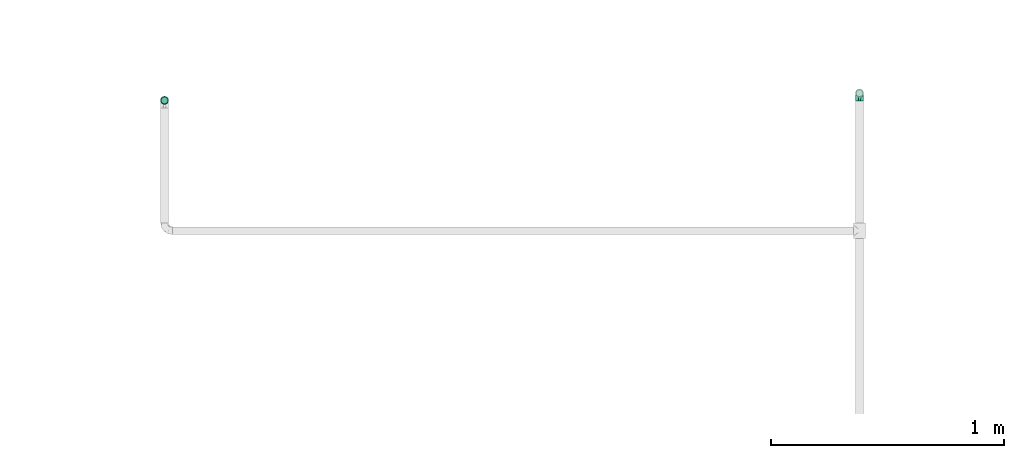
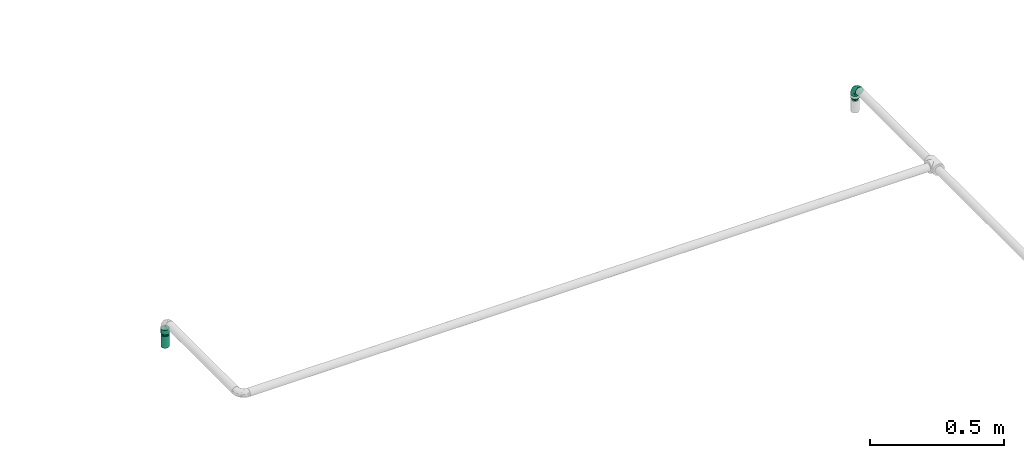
# One storey, part 7 of 17: 3 flow fittings, 1 flow segment, 1 flow terminal.
"""IFC2X3 building model written with IfcOpenShell, lengths in millimetres."""

from ifc_helpers import new_model, entity, si_unit, converted_unit, derived_unit, direction, frame, origin_with_axes, origin_2d_with_axis, place, context, subcontext, project, spatial, hollow_circle, extrude, open_shell, surface_model, source, transform, mapped, type_object, element, save


model = new_model("IFC2X3")

# Units and contexts
model_context = context("Model", 3, precision=0.01, world=frame((0.0, 4.29681676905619e-09, 0.0)), true_north=direction((4.01073788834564e-13, 1.0)))
plan_context = context("Plan", 3, precision=0.01, world=frame((0.0, 4.29681676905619e-09, 0.0)), true_north=direction((4.01073788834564e-13, 1.0)))
body_context = subcontext(model_context, "Body", "Model", "MODEL_VIEW")
ifc_project = project(units=[converted_unit("PLANEANGLEUNIT", "DEGREE", entity("IfcPositiveLengthMeasure", 0.0174532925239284), si_unit("PLANEANGLEUNIT", "RADIAN"), dimensions=[0, 0, 0, 0, 0, 0, 0]), si_unit("AREAUNIT", "SQUARE_METRE"), si_unit("LENGTHUNIT", "METRE", prefix="MILLI"), si_unit("MASSUNIT", "GRAM", prefix="KILO"), si_unit("POWERUNIT", "WATT"), si_unit("PRESSUREUNIT", "PASCAL"), si_unit("FORCEUNIT", "NEWTON", prefix="KILO"), si_unit("ELECTRICVOLTAGEUNIT", "VOLT"), si_unit("ELECTRICCURRENTUNIT", "AMPERE"), si_unit("THERMODYNAMICTEMPERATUREUNIT", "DEGREE_CELSIUS"), si_unit("TIMEUNIT", "SECOND"), si_unit("VOLUMEUNIT", "CUBIC_METRE"), derived_unit("LINEARVELOCITYUNIT", [(si_unit("LENGTHUNIT", "METRE"), 1), (si_unit("TIMEUNIT", "SECOND"), -1)]), derived_unit("VOLUMETRICFLOWRATEUNIT", [(si_unit("VOLUMEUNIT", "CUBIC_METRE"), 1), (si_unit("TIMEUNIT", "SECOND"), -1)]), derived_unit("THERMALTRANSMITTANCEUNIT", [(si_unit("POWERUNIT", "WATT"), 1), (si_unit("THERMODYNAMICTEMPERATUREUNIT", "KELVIN"), -1), (si_unit("AREAUNIT", "SQUARE_METRE"), -1)]), derived_unit("SOUNDPRESSUREUNIT", [(si_unit("PRESSUREUNIT", "PASCAL"), 1)])], contexts=[model_context, plan_context])

# Site, building, storey
site_placement = place(None, frame((0.0, -4.29681676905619e-09, 0.0), z_axis=(0.0, 0.0, 1.0), x_axis=(1.0, 0.0, 0.0)))
site = spatial("IfcSite", under=ifc_project, at=site_placement, Name="ENGM", CompositionType="ELEMENT")
building_placement = place(site_placement, frame((0.0, 4.29681676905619e-09, 0.0), z_axis=(0.0, 0.0, 1.0), x_axis=(1.0, 0.0, 0.0)))
building = spatial("IfcBuilding", under=site, at=building_placement, Name="TH", CompositionType="ELEMENT")
storey_placement = place(building_placement, frame((0.0, 0.0, 205200.0), z_axis=(0.0, 0.0, 1.0), x_axis=(1.0, 0.0, 0.0)))
storey = spatial("IfcBuildingStorey", under=building, at=storey_placement, Name="Nivå D + 1,2 m", CompositionType="ELEMENT", Elevation=205200.0)

# Flow fittings
pipe_fitting_type_1 = type_object("IfcPipeFittingType", Name="magi_pipe_fe_elbow_short_001", PredefinedType="BEND")
shared_shape_1 = source(origin_with_axes(), body_context, "Body", "SurfaceModel", [
    surface_model("IfcShellBasedSurfaceModel", [(-33.8, 8.45, -14.63583), (-33.8, 4.37404, -16.32415), (-33.8, 11.9501, -11.9501), (-33.8, -11.9501, -11.9501), (-33.8, -14.63583, -8.45), (-33.8, -8.45, -14.63583), (-33.8, 0.0, -16.9), (-33.8, -4.37404, -16.32415), (-33.8, -4.37404, 16.32415), (-33.8, 0.0, 16.9), (-33.8, -8.45, 14.63583), (-33.8, 16.32415, -4.37404), (-33.8, 14.63583, -8.45), (-33.8, -16.32415, -4.37404), (-33.8, -16.9, 0.0), (-33.8, -16.32415, 4.37404), (-33.8, 11.9501, 11.9501), (-33.8, 14.63583, 8.45), (-33.8, 16.32415, 4.37404), (-33.8, 4.37404, 16.32415), (-33.8, 8.45, 14.63583), (-33.8, -14.63583, 8.45), (-33.8, -11.9501, 11.9501), (-33.8, 16.9, 0.0), (-11.9501, 33.8, -11.9501), (0.0, 33.8, -16.9), (-4.37404, 33.8, -16.32415), (-8.45, 33.8, -14.63583), (-14.63583, 33.8, -8.45), (-16.32415, 33.8, -4.37404), (14.63583, 33.8, -8.45), (8.45, 33.8, 14.63583), (16.32415, 33.8, -4.37404), (8.45, 33.8, -14.63583), (11.9501, 33.8, -11.9501), (4.37404, 33.8, -16.32415), (16.32415, 33.8, 4.37404), (16.9, 33.8, 0.0), (-11.9501, 33.8, 11.9501), (-16.32415, 33.8, 4.37404), (-14.63583, 33.8, 8.45), (-8.45, 33.8, 14.63583), (-4.37404, 33.8, 16.32415), (11.9501, 33.8, 11.9501), (14.63583, 33.8, 8.45), (0.0, 33.8, 16.9), (4.37404, 33.8, 16.32415), (-16.9, 33.8, 0.0), (-24.79389, -13.12945, 9.48721), (-22.19287, -9.75018, 12.59315), (-24.09897, -14.97035, 0.0), (-14.93934, -10.76256, 8.5297), (-22.46095, -14.75051, 5.27077), (14.75051, 22.46094, 5.27077), (11.9251, 13.23888, 4.33236), (13.04069, 14.39795, 0.0), (7.71387, 13.68847, 11.55891), (9.75018, 22.19287, 12.59315), (4.10169, 13.0571, 14.04018), (-24.84007, -6.39063, 15.2048), (-25.81779, -2.23879, 16.61097), (-23.66549, 2.59054, 16.87119), (-26.50418, 14.06512, 11.08152), (-24.21253, 17.66365, 7.72657), (-29.58514, 15.86957, 7.00283), (-6.17382, -7.5455, 0.0), (-13.23888, -11.9251, 4.33236), (-14.39795, -13.04069, 0.0), (-17.81434, 18.87373, 11.97104), (-6.30846, 29.15138, 15.82987), (-2.31622, 25.28002, 16.85849), (-29.23923, 10.23435, 13.77053), (-1.45439, -2.85688, 7.61475), (-0.28326, 0.34872, 10.09509), (-5.74484, -4.04709, 10.4122), (-4.41137, 11.31918, 16.59407), (-8.39727, 3.10034, 15.7812), (-1.72649, 9.1306, 15.53089), (-17.39909, 24.75344, 7.64977), (-26.19233, 20.0512, 0.0), (-28.14518, 17.29657, 4.25857), (-26.05147, 6.6281, 15.96447), (-5.87354, 16.61944, 16.86968), (-12.51807, 12.51807, 16.48937), (-10.06312, 7.38516, 16.81295), (-3.01882, 3.01882, 13.81718), (-13.0571, -4.10169, 14.04018), (-16.82553, -0.15166, 16.38038), (10.76256, 14.93934, 8.5297), (13.12945, 24.79389, 9.48721), (6.39063, 24.84007, 15.2048), (2.23879, 25.81779, 16.61097), (-13.68847, -7.71387, 11.55891), (14.97035, 24.09897, 0.0), (-7.30894, 22.89991, 16.09489), (-10.67958, 26.17414, 14.008), (-12.78295, 18.26924, 15.06066), (-13.88562, 22.45231, 12.93244), (-18.04944, 15.16501, 14.04434), (-23.11658, 20.08178, 4.02986), (-21.84989, 21.84989, 0.0), (-18.55817, 25.48277, 3.93065), (-13.95142, 26.94732, 11.03289), (-18.57098, 7.23906, 16.59756), (-16.58335, 4.14122, 16.89279), (-17.96666, 11.46709, 15.63151), (-9.84453, 17.54304, 16.18938), (0.15166, 16.82553, 16.38038), (-23.27207, 11.47201, 14.23154), (3.84842, 5.86994, 10.70473), (-8.0212, -7.54413, 7.93275), (1.00345, -2.19508, 4.57414), (5.13203, 3.01004, 5.90201), (5.24161, 1.7543, 2.53265), (8.70457, 7.04947, 3.99182), (-20.0512, 26.19233, 0.0), (8.4852, 8.76699, 7.09296), (-4.55488, -6.72064, 4.90681), (2.05031, -2.05031, 0.0), (7.5455, 6.17382, 0.0), (-26.75399, 2.1369, -16.845), (-14.61995, 24.73803, -11.27736), (-28.45274, -13.45335, -9.81895), (-26.00469, 6.63555, -15.96645), (-23.06726, 20.04573, -4.26202), (-13.80647, -4.26506, -14.17873), (-14.67501, -0.21081, -16.07388), (-6.7902, -0.2828, -13.8478), (-24.53586, 11.08096, -14.13417), (-26.72048, 14.00837, -11.05776), (10.0967, 24.44989, -12.75976), (5.83237, 21.40218, -15.03047), (6.66249, 28.54238, -15.38093), (-20.38182, 15.48705, -12.74596), (12.53268, 21.23441, -9.15363), (12.54494, 15.67504, -5.54878), (9.7522, 12.89279, -8.66343), (-15.65186, 19.64213, -13.01327), (-12.03528, 20.66498, -14.67665), (-15.61907, 15.61906, -14.83879), (-25.56551, -15.26206, 0.0), (-24.65452, -15.12934, -5.50955), (13.45335, 28.45274, -9.81895), (15.12934, 24.65452, -5.50955), (-7.35442, -8.31014, -5.65563), (-15.67504, -12.54494, -5.54878), (-24.44989, -10.0967, -12.75976), (0.16522, 0.41303, -9.71728), (-5.70658, -5.33066, -8.89288), (-5.13869, -2.37198, -11.53565), (-21.23441, -12.53268, -9.15363), (0.71146, 7.93863, -14.09382), (0.21081, 14.67501, -16.07388), (3.49291, 14.42772, -14.76381), (-24.89911, -2.13088, -16.591), (-28.54238, -6.66249, -15.38093), (-18.44386, -7.71663, -13.26957), (2.13088, 24.89911, -16.591), (-28.64342, 17.44413, -2.89318), (1.70017, -1.28722, -5.09504), (-16.57067, 26.81947, -7.36596), (-17.69055, 27.4263, -3.76405), (-12.89279, -9.7522, -8.66343), (-5.96611, 5.96611, -15.95814), (-20.53709, 20.09345, -8.28985), (-2.1369, 26.75399, -16.845), (-6.89872, 24.58781, -16.02578), (-10.60739, 26.53157, -13.98044), (-21.40218, -5.83237, -15.03047), (2.93192, 5.89627, -11.55917), (6.89393, 12.61842, -11.82233), (5.58056, 5.95325, -8.79455), (-3.99512, 18.61798, -16.89635), (8.31014, 7.35442, -5.65563), (-9.1383, 9.86148, -16.89041), (-9.99983, 16.02119, -16.39699), (-16.68576, 9.78031, -16.34199), (-27.01915, 16.61158, -7.12979), (15.26206, 25.56551, 0.0), (-18.61798, 3.99512, -16.89635), (-19.37495, 27.82495, 0.0), (-12.61842, -6.89393, -11.82233), (-18.84705, 19.14018, -10.96545)], [open_shell([[[0, 1, 2]], [[3, 4, 5]], [[6, 7, 5]], [[8, 9, 10]], [[1, 6, 2]], [[11, 12, 2]], [[4, 2, 6]], [[2, 13, 10]], [[5, 4, 6]], [[2, 4, 13]], [[14, 15, 13]], [[11, 2, 16]], [[11, 17, 18]], [[11, 16, 17]], [[19, 20, 16]], [[16, 2, 10]], [[19, 16, 10]], [[21, 22, 15]], [[22, 13, 15]], [[22, 10, 13]], [[10, 9, 19]], [[11, 18, 23]], [[24, 25, 26]], [[24, 26, 27]], [[24, 28, 29]], [[25, 24, 30]], [[31, 32, 24]], [[33, 30, 34]], [[33, 35, 25]], [[25, 30, 33]], [[32, 30, 24]], [[32, 36, 37]], [[38, 24, 29]], [[39, 40, 29]], [[40, 38, 29]], [[38, 41, 42]], [[38, 31, 24]], [[31, 38, 42]], [[36, 43, 44]], [[36, 32, 43]], [[31, 45, 46]], [[32, 31, 43]], [[42, 45, 31]], [[39, 29, 47]], [[22, 48, 49]], [[15, 14, 50]], [[51, 48, 52]], [[53, 54, 55]], [[48, 22, 21]], [[15, 52, 21]], [[56, 57, 58]], [[49, 10, 22]], [[49, 59, 10]], [[9, 60, 61]], [[62, 63, 64]], [[65, 66, 67]], [[57, 43, 31]], [[62, 68, 63]], [[42, 69, 70]], [[20, 71, 16]], [[8, 60, 9]], [[72, 73, 74]], [[75, 76, 77]], [[16, 62, 17]], [[40, 39, 78]], [[79, 23, 80]], [[64, 18, 17]], [[9, 61, 19]], [[19, 81, 20]], [[82, 83, 84]], [[74, 85, 86]], [[59, 86, 87]], [[88, 89, 57]], [[90, 31, 46]], [[44, 53, 36]], [[46, 45, 91]], [[54, 53, 88]], [[44, 89, 53]], [[92, 86, 49]], [[89, 44, 43]], [[10, 59, 8]], [[53, 55, 93]], [[93, 36, 53]], [[66, 52, 67]], [[94, 82, 70]], [[95, 96, 94]], [[97, 98, 96]], [[79, 99, 100]], [[41, 38, 95]], [[101, 100, 99]], [[68, 78, 63]], [[42, 41, 69]], [[23, 18, 80]], [[95, 94, 69]], [[78, 101, 99]], [[38, 102, 95]], [[70, 45, 42]], [[97, 95, 102]], [[15, 50, 52]], [[90, 57, 31]], [[57, 90, 58]], [[81, 19, 61]], [[103, 104, 84]], [[105, 81, 103]], [[38, 40, 102]], [[106, 96, 83]], [[94, 106, 82]], [[91, 70, 107]], [[71, 62, 16]], [[62, 108, 98]], [[86, 59, 49]], [[67, 52, 50]], [[60, 59, 87]], [[92, 49, 51]], [[86, 85, 76]], [[91, 90, 46]], [[37, 36, 93]], [[107, 77, 58]], [[107, 58, 90]], [[58, 85, 109]], [[110, 74, 92]], [[72, 74, 110]], [[66, 51, 52]], [[72, 111, 112]], [[113, 114, 112]], [[56, 88, 57]], [[52, 48, 21]], [[49, 48, 51]], [[57, 89, 43]], [[53, 89, 88]], [[103, 81, 61]], [[71, 81, 108]], [[18, 64, 80]], [[63, 78, 99]], [[47, 115, 101]], [[101, 115, 100]], [[40, 78, 102]], [[68, 102, 78]], [[97, 96, 95]], [[105, 98, 108]], [[103, 84, 83]], [[107, 70, 82]], [[76, 84, 87]], [[82, 84, 75]], [[70, 91, 45]], [[90, 91, 107]], [[59, 60, 8]], [[61, 60, 87]], [[73, 85, 74]], [[109, 112, 116]], [[103, 61, 104]], [[105, 103, 83]], [[96, 105, 83]], [[81, 105, 108]], [[96, 98, 105]], [[62, 98, 68]], [[61, 87, 104]], [[87, 84, 104]], [[86, 76, 87]], [[77, 76, 85]], [[58, 77, 85]], [[75, 77, 107]], [[82, 75, 107]], [[76, 75, 84]], [[81, 71, 20]], [[62, 71, 108]], [[95, 69, 41]], [[70, 69, 94]], [[62, 64, 17]], [[80, 63, 99]], [[63, 80, 64]], [[80, 99, 79]], [[66, 65, 117]], [[110, 66, 117]], [[112, 114, 116]], [[118, 117, 65]], [[110, 92, 51]], [[112, 111, 113]], [[119, 55, 54]], [[74, 86, 92]], [[58, 109, 56]], [[116, 56, 109]], [[66, 110, 51]], [[72, 110, 117]], [[111, 72, 117]], [[73, 112, 109]], [[117, 118, 111]], [[113, 111, 118]], [[118, 119, 113]], [[114, 119, 54]], [[119, 114, 113]], [[116, 54, 88]], [[54, 116, 114]], [[116, 88, 56]], [[112, 73, 72]], [[85, 73, 109]], [[78, 39, 101]], [[47, 101, 39]], [[102, 68, 97]], [[97, 68, 98]], [[82, 106, 83]], [[94, 96, 106]], [[1, 120, 6]], [[28, 24, 121]], [[3, 122, 4]], [[0, 123, 1]], [[100, 124, 79]], [[125, 126, 127]], [[128, 2, 129]], [[130, 131, 132]], [[128, 129, 133]], [[134, 135, 136]], [[137, 138, 139]], [[128, 0, 2]], [[67, 140, 141]], [[134, 142, 143]], [[141, 13, 4]], [[144, 65, 145]], [[146, 3, 5]], [[147, 148, 149]], [[145, 141, 150]], [[151, 152, 153]], [[154, 7, 6]], [[5, 155, 146]], [[150, 146, 156]], [[155, 5, 7]], [[143, 135, 134]], [[35, 157, 25]], [[23, 79, 158]], [[148, 159, 144]], [[160, 161, 29]], [[145, 162, 144]], [[163, 152, 151]], [[29, 28, 160]], [[121, 164, 160]], [[33, 34, 130]], [[25, 165, 26]], [[26, 165, 166]], [[142, 34, 30]], [[24, 27, 167]], [[124, 161, 164]], [[157, 35, 132]], [[155, 154, 168]], [[123, 0, 128]], [[169, 170, 171]], [[172, 157, 152]], [[26, 166, 27]], [[132, 35, 33]], [[142, 130, 34]], [[168, 154, 126]], [[136, 135, 173]], [[133, 137, 139]], [[2, 12, 129]], [[170, 131, 130]], [[30, 32, 143]], [[172, 174, 175]], [[176, 123, 128]], [[158, 177, 11]], [[135, 55, 119]], [[167, 27, 166]], [[175, 166, 172]], [[137, 167, 138]], [[122, 141, 4]], [[140, 14, 13]], [[32, 37, 178]], [[170, 130, 134]], [[152, 157, 131]], [[165, 157, 172]], [[153, 170, 151]], [[152, 163, 174]], [[168, 125, 156]], [[122, 146, 150]], [[120, 154, 6]], [[179, 174, 126]], [[179, 126, 154]], [[126, 163, 127]], [[162, 145, 150]], [[140, 13, 141]], [[32, 178, 143]], [[55, 143, 178]], [[177, 129, 12]], [[128, 133, 139]], [[176, 128, 139]], [[120, 123, 179]], [[121, 160, 28]], [[161, 100, 180]], [[166, 175, 138]], [[121, 24, 167]], [[161, 47, 29]], [[79, 124, 158]], [[124, 164, 177]], [[161, 124, 100]], [[136, 171, 170]], [[127, 163, 151]], [[147, 171, 159]], [[148, 144, 162]], [[127, 151, 169]], [[127, 181, 125]], [[129, 177, 164]], [[12, 11, 177]], [[159, 65, 144]], [[67, 141, 145]], [[143, 55, 135]], [[135, 119, 173]], [[123, 120, 1]], [[154, 120, 179]], [[157, 165, 25]], [[166, 165, 172]], [[172, 152, 174]], [[176, 139, 175]], [[126, 174, 163]], [[176, 174, 179]], [[174, 176, 175]], [[123, 176, 179]], [[150, 181, 162]], [[127, 149, 181]], [[181, 148, 162]], [[159, 148, 147]], [[171, 136, 173]], [[170, 134, 136]], [[159, 171, 173]], [[171, 147, 169]], [[169, 147, 149]], [[151, 170, 169]], [[164, 182, 129]], [[182, 121, 137]], [[181, 149, 148]], [[169, 149, 127]], [[182, 137, 133]], [[167, 137, 121]], [[166, 138, 167]], [[175, 139, 138]], [[129, 182, 133]], [[121, 182, 164]], [[161, 160, 164]], [[47, 161, 180]], [[177, 158, 124]], [[23, 158, 11]], [[130, 132, 33]], [[157, 132, 131]], [[143, 142, 30]], [[130, 142, 134]], [[154, 155, 7]], [[146, 155, 168]], [[146, 122, 3]], [[141, 122, 150]], [[152, 131, 153]], [[159, 119, 118]], [[67, 145, 65]], [[170, 153, 131]], [[119, 159, 173]], [[159, 118, 65]], [[156, 125, 181]], [[126, 125, 168]], [[150, 156, 181]], [[168, 156, 146]]])]),
])
flow_fitting_placement = place(storey_placement, frame((902429.75707, 482260.0386, 4450.0), z_axis=(-1.0, 0.0, 0.0), x_axis=(0.0, 1.0, 0.0)))
element("IfcFlowFitting", 1, at=flow_fitting_placement, inside=storey, type_object=pipe_fitting_type_1, Name="magi_pipe_fe_elbow_short_001", context=body_context, shape_type="MappedRepresentation", body=[
    mapped(shared_shape_1, transform((0.0, 0.0, 0.0), scale=1.0)),
])
pipe_fitting_type_2 = type_object("IfcPipeFittingType", Name="magi_pipe_fe_reducer_centric_short_NOR", PredefinedType="TRANSITION")
shared_shape_2 = source(origin_with_axes(), body_context, "Body", "SurfaceModel", [
    surface_model("IfcShellBasedSurfaceModel", [(14.4, 5.35, -9.26647), (14.4, 0.0, -10.7), (14.4, 2.76936, -10.33541), (14.4, 10.33541, -2.76936), (14.4, 7.56604, -7.56604), (14.4, 9.26647, -5.35), (14.4, -5.35, -9.26647), (14.4, -2.76936, -10.33541), (14.4, -7.56604, -7.56604), (14.4, -10.33541, -2.76936), (14.4, -9.26647, -5.35), (14.4, 10.33541, 2.76936), (14.4, 9.26647, 5.35), (14.4, 7.56604, 7.56604), (14.4, 2.76936, 10.33541), (14.4, 5.35, 9.26647), (14.4, -7.56604, 7.56604), (14.4, -2.76936, 10.33541), (14.4, -5.35, 9.26647), (12.4, 7.56604, 7.56604), (12.4, 9.26647, 5.35), (12.4, 10.33541, 2.76936), (12.4, -2.76936, 10.33541), (12.4, -7.56604, 7.56604), (12.4, -5.35, 9.26647), (12.4, -10.33541, 2.76936), (12.4, -9.26647, 5.35), (12.4, 0.0, 10.7), (12.4, -10.33541, -2.76936), (12.4, -10.7, 0.0), (12.4, -5.35, -9.26647), (12.4, 0.0, -10.7), (12.4, -2.76936, -10.33541), (12.4, 2.76936, -10.33541), (12.4, 10.33541, -2.76936), (12.4, 10.7, 0.0), (12.4, -9.26647, -5.35), (12.4, -7.56604, -7.56604), (14.4, -10.7, 0.0), (12.4, 5.35, -9.26647), (12.4, 7.56604, -7.56604), (12.4, 9.26647, -5.35), (14.4, 10.7, 0.0), (12.4, 5.35, 9.26647), (12.4, 2.76936, 10.33541), (14.4, 0.0, 10.7), (14.4, -9.26647, 5.35), (14.4, -10.33541, 2.76936), (-2.0, 11.9501, 11.9501), (-2.0, 0.0, 16.9), (-2.0, 4.37404, 16.32415), (-2.0, 8.45, 14.63583), (-2.0, 14.63583, 8.45), (-2.0, 16.32415, 4.37404), (-2.0, -16.32415, 4.37404), (-2.0, -8.45, 14.63583), (-2.0, -14.63583, 8.45), (-2.0, -11.9501, 11.9501), (-2.0, -4.37404, 16.32415), (-2.0, -16.32415, -4.37404), (-2.0, -16.9, 0.0), (-2.0, -8.45, -14.63583), (-2.0, 16.32415, -4.37404), (-2.0, 11.9501, -11.9501), (-2.0, 14.63583, -8.45), (-2.0, 8.45, -14.63583), (-2.0, 4.37404, -16.32415), (-2.0, 0.0, -16.9), (-2.0, -11.9501, -11.9501), (-2.0, -14.63583, -8.45), (-2.0, -4.37404, -16.32415), (-2.0, 16.9, 0.0), (0.0, 4.37404, -16.32415), (0.0, 8.45, -14.63583), (0.0, 11.9501, -11.9501), (0.0, 0.0, -16.9), (0.0, 16.32415, -4.37404), (0.0, 16.32415, 4.37404), (0.0, 14.63583, -8.45), (0.0, -8.45, -14.63583), (0.0, -4.37404, -16.32415), (0.0, -11.9501, -11.9501), (0.0, -16.32415, -4.37404), (0.0, -14.63583, -8.45), (0.0, -16.32415, 4.37404), (0.0, 16.9, 0.0), (0.0, 14.63583, 8.45), (0.0, 11.9501, 11.9501), (0.0, 4.37404, 16.32415), (0.0, 8.45, 14.63583), (0.0, 0.0, 16.9), (0.0, -14.63583, 8.45), (0.0, -16.9, 0.0), (0.0, -8.45, 14.63583), (0.0, -11.9501, 11.9501), (0.0, -4.37404, 16.32415), (12.4, 9.3625, -2.31662), (0.0, 14.42505, -5.97505), (0.0, 15.66253, -2.98753), (12.4, -6.6875, -6.94985), (0.0, -13.18758, -8.96258), (0.0, 2.98753, -15.66253), (12.4, 0.0, -9.26647), (12.4, 6.6875, -6.94985), (0.0, 8.96258, -13.18758), (12.4, -9.3625, -2.31662), (0.0, -15.66253, -2.98753), (0.0, -14.42505, -5.97505), (0.0, 5.97505, -14.42505), (0.0, -2.98753, -15.66253), (0.0, -8.96258, -13.18758), (0.0, 13.18758, -8.96258), (12.4, 8.025, -4.63324), (12.4, -2.675, -9.26647), (12.4, 2.675, -9.26647), (0.0, -5.97505, -14.42505), (12.4, -8.025, -4.63324), (12.4, -9.3625, 2.31662), (0.0, -14.42505, 5.97505), (0.0, -15.66253, 2.98753), (12.4, 6.6875, 6.94985), (0.0, 13.18758, 8.96258), (0.0, -2.98753, 15.66253), (12.4, 0.0, 9.26647), (12.4, -6.6875, 6.94985), (0.0, -8.96258, 13.18758), (12.4, 9.3625, 2.31662), (0.0, 15.66253, 2.98753), (0.0, 14.42505, 5.97505), (0.0, -5.97505, 14.42505), (0.0, 2.98753, 15.66253), (0.0, 8.96258, 13.18758), (0.0, -13.18758, 8.96258), (12.4, -8.025, 4.63324), (12.4, 2.675, 9.26647), (12.4, -2.675, 9.26647), (0.0, 5.97505, 14.42505), (12.4, 8.025, 4.63324)], [open_shell([[[0, 1, 2]], [[3, 0, 4]], [[3, 4, 5]], [[1, 6, 7]], [[1, 0, 6]], [[8, 9, 10]], [[9, 8, 6]], [[11, 12, 13]], [[14, 13, 15]], [[16, 17, 18]], [[19, 20, 21]], [[22, 23, 24]], [[23, 22, 25]], [[23, 25, 26]], [[22, 27, 25]], [[25, 28, 29]], [[30, 31, 32]], [[30, 28, 33]], [[33, 31, 30]], [[34, 21, 35]], [[28, 9, 29]], [[36, 10, 28]], [[6, 37, 30]], [[36, 37, 8]], [[7, 30, 32]], [[28, 10, 9]], [[9, 38, 29]], [[7, 6, 30]], [[8, 37, 6]], [[8, 10, 36]], [[1, 7, 32]], [[32, 31, 1]], [[33, 2, 31]], [[39, 0, 33]], [[5, 40, 41]], [[39, 40, 4]], [[3, 41, 34]], [[39, 4, 0]], [[0, 2, 33]], [[42, 3, 34]], [[5, 41, 3]], [[5, 4, 40]], [[35, 42, 34]], [[31, 2, 1]], [[21, 11, 35]], [[20, 12, 21]], [[15, 19, 43]], [[20, 19, 13]], [[14, 43, 44]], [[21, 12, 11]], [[11, 42, 35]], [[14, 15, 43]], [[13, 19, 15]], [[13, 12, 20]], [[45, 14, 44]], [[44, 27, 45]], [[22, 17, 27]], [[24, 18, 22]], [[46, 23, 26]], [[24, 23, 16]], [[47, 26, 25]], [[24, 16, 18]], [[18, 17, 22]], [[38, 47, 25]], [[46, 26, 47]], [[46, 16, 23]], [[29, 38, 25]], [[27, 17, 45]], [[48, 49, 50]], [[48, 50, 51]], [[48, 52, 53]], [[48, 53, 49]], [[49, 53, 54]], [[55, 56, 57]], [[55, 58, 49]], [[56, 55, 49]], [[49, 54, 56]], [[54, 59, 60]], [[54, 53, 61]], [[53, 62, 63]], [[63, 62, 64]], [[63, 65, 66]], [[61, 53, 63]], [[67, 63, 66]], [[59, 68, 69]], [[68, 59, 61]], [[61, 67, 70]], [[59, 54, 61]], [[63, 67, 61]], [[53, 71, 62]], [[72, 73, 74]], [[75, 72, 74]], [[74, 76, 77]], [[76, 74, 78]], [[74, 77, 79]], [[75, 79, 80]], [[75, 74, 79]], [[81, 82, 83]], [[82, 81, 79]], [[79, 84, 82]], [[77, 76, 85]], [[77, 86, 87]], [[77, 87, 88]], [[88, 84, 79]], [[88, 87, 89]], [[84, 88, 90]], [[90, 91, 84]], [[92, 82, 84]], [[91, 93, 94]], [[91, 90, 93]], [[93, 90, 95]], [[79, 77, 88]], [[59, 82, 60]], [[69, 83, 59]], [[79, 68, 61]], [[69, 68, 81]], [[80, 61, 70]], [[59, 83, 82]], [[82, 92, 60]], [[80, 79, 61]], [[81, 68, 79]], [[81, 83, 69]], [[75, 80, 70]], [[70, 67, 75]], [[66, 72, 67]], [[65, 73, 66]], [[78, 63, 64]], [[65, 63, 74]], [[76, 64, 62]], [[65, 74, 73]], [[73, 72, 66]], [[85, 76, 62]], [[78, 64, 76]], [[78, 74, 63]], [[71, 85, 62]], [[67, 72, 75]], [[53, 77, 71]], [[52, 86, 53]], [[89, 48, 51]], [[52, 48, 87]], [[88, 51, 50]], [[53, 86, 77]], [[77, 85, 71]], [[88, 89, 51]], [[87, 48, 89]], [[87, 86, 52]], [[90, 88, 50]], [[50, 49, 90]], [[58, 95, 49]], [[55, 93, 58]], [[91, 57, 56]], [[55, 57, 94]], [[84, 56, 54]], [[55, 94, 93]], [[93, 95, 58]], [[92, 84, 54]], [[91, 56, 84]], [[91, 94, 57]], [[60, 92, 54]], [[49, 95, 90]], [[43, 24, 35]], [[35, 24, 30]], [[30, 39, 35]], [[30, 24, 29]], [[87, 74, 92]], [[75, 92, 74]], [[81, 92, 75]], [[74, 87, 85]], [[96, 97, 98]], [[81, 99, 100]], [[101, 102, 75]], [[98, 85, 35]], [[74, 103, 104]], [[104, 103, 39]], [[105, 106, 107]], [[39, 108, 104]], [[102, 109, 75]], [[110, 99, 81]], [[35, 96, 98]], [[103, 111, 112]], [[109, 102, 113]], [[29, 92, 106]], [[102, 101, 114]], [[110, 115, 30]], [[96, 112, 97]], [[107, 116, 105]], [[29, 106, 105]], [[113, 115, 109]], [[30, 115, 113]], [[116, 107, 100]], [[108, 39, 114]], [[111, 103, 74]], [[111, 97, 112]], [[99, 110, 30]], [[116, 100, 99]], [[101, 108, 114]], [[117, 118, 119]], [[87, 120, 121]], [[122, 123, 90]], [[119, 92, 29]], [[94, 124, 125]], [[125, 124, 24]], [[126, 127, 128]], [[24, 129, 125]], [[123, 130, 90]], [[131, 120, 87]], [[29, 117, 119]], [[124, 132, 133]], [[130, 123, 134]], [[35, 85, 127]], [[123, 122, 135]], [[131, 136, 43]], [[117, 133, 118]], [[128, 137, 126]], [[35, 127, 126]], [[134, 136, 130]], [[43, 136, 134]], [[137, 128, 121]], [[129, 24, 135]], [[132, 124, 94]], [[132, 118, 133]], [[120, 131, 43]], [[137, 121, 120]], [[122, 129, 135]], [[6, 0, 3]], [[46, 6, 3]], [[6, 46, 9]], [[11, 3, 42]], [[3, 13, 46]], [[14, 45, 13]], [[46, 13, 45]], [[9, 47, 38]], [[46, 47, 9]], [[17, 16, 46]], [[45, 17, 46]], [[3, 11, 13]], [[27, 44, 43]], [[27, 43, 19]], [[27, 19, 25]], [[34, 25, 19]], [[34, 19, 21]], [[28, 25, 34]], [[33, 34, 41]], [[40, 39, 33]], [[40, 33, 41]], [[28, 34, 33]], [[28, 37, 36]], [[37, 28, 30]], [[90, 87, 92]], [[92, 94, 90]]])]),
])
for number, where, z_axis, x_axis, name in (
    (2, (902429.75707, 482260.0386, 4402.14486), (0.0, -1.0, 0.0), (0.0, 0.0, -1.0), "magi_pipe_fe_reducer_centric_short_NOR"),
    (3, (899443.61593, 482229.28614, 4396.06570000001), (0.0, -1.0, 0.0), (0.0, 0.0, -1.0), "magi_pipe_fe_reducer_centric_short_NOR"),
):
    element("IfcFlowFitting", number, at=place(storey_placement, frame(where, z_axis=z_axis, x_axis=x_axis)), inside=storey, type_object=pipe_fitting_type_2, Name=name, context=body_context, shape_type="MappedRepresentation", body=[
        mapped(shared_shape_2, transform((0.0, 0.0, 0.0), scale=1.0)),
    ])

# Flow segment
pipe_segment_type = type_object("IfcPipeSegmentType", Name="Stålrør normaltykke", PredefinedType="RIGIDSEGMENT")
shared_shape_3 = source(origin_with_axes(), body_context, "Body", "SweptSolid", [
    extrude(hollow_circle(Radius=16.9, WallThickness=2.0, at=origin_2d_with_axis()), frame((0.0, 0.0, 0.0), z_axis=(1.0, 0.0, 0.0), x_axis=(0.0, 1.0, 0.0)), (0.0, 0.0, 1.0), 20.3),
])
flow_segment_placement = place(storey_placement, frame((899443.61593, 482229.28614, 4416.35311999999), z_axis=(0.0, -1.0, 0.0), x_axis=(0.0, 0.0, -1.0)))
element("IfcFlowSegment", 4, at=flow_segment_placement, inside=storey, type_object=pipe_segment_type, Name="Stålrør normaltykke", context=body_context, shape_type="MappedRepresentation", body=[
    mapped(shared_shape_3, transform((0.0, 0.0, 0.0), scale=1.0)),
])

# Flow terminal
fire_suppression_terminal_type = type_object("IfcFireSuppressionTerminalType", Name="SP-15-K80-68DGR-STD-NEDOVER", PredefinedType="NOTDEFINED")
shared_shape_4 = source(origin_with_axes(), body_context, "Body", "SurfaceModel", [
    surface_model("IfcShellBasedSurfaceModel", [(4.1411, -15.45481, 53.0), (8.0, -13.85641, 53.0), (11.31371, -11.31371, 53.0), (-8.0, -13.85641, 53.0), (15.45481, -4.1411, 53.0), (16.0, 0.0, 53.0), (13.85641, -8.0, 53.0), (0.0, -16.0, 53.0), (-4.1411, -15.45481, 53.0), (-13.85641, -8.0, 53.0), (-11.31371, -11.31371, 53.0), (-15.45481, -4.1411, 53.0), (15.45481, 4.1411, 53.0), (13.85641, 8.0, 53.0), (11.31371, 11.31371, 53.0), (-4.1411, 15.45481, 53.0), (8.0, 13.85641, 53.0), (4.1411, 15.45481, 53.0), (0.0, 16.0, 53.0), (-13.85641, 8.0, 53.0), (-15.45481, 4.1411, 53.0), (-16.0, 0.0, 53.0), (-11.31371, 11.31371, 53.0), (-8.0, 13.85641, 53.0), (0.0, 16.0, 0.0), (4.1411, 15.45481, 0.0), (8.0, 13.85641, 0.0), (-4.1411, 15.45481, 0.0), (11.31371, 11.31371, 0.0), (13.85641, 8.0, 0.0), (15.45481, 4.1411, 0.0), (-15.45481, -4.1411, 0.0), (-11.31371, 11.31371, 0.0), (-8.0, 13.85641, 0.0), (-13.85641, 8.0, 0.0), (-15.45481, 4.1411, 0.0), (-16.0, 0.0, 0.0), (4.1411, -15.45481, 0.0), (16.0, 0.0, 0.0), (15.45481, -4.1411, 0.0), (13.85641, -8.0, 0.0), (11.31371, -11.31371, 0.0), (8.0, -13.85641, 0.0), (-8.0, -13.85641, 0.0), (-13.85641, -8.0, 0.0), (-11.31371, -11.31371, 0.0), (0.0, -16.0, 0.0), (-4.1411, -15.45481, 0.0)], [open_shell([[[0, 1, 2]], [[3, 0, 2]], [[4, 5, 2]], [[4, 2, 6]], [[3, 2, 5]], [[7, 3, 8]], [[7, 0, 3]], [[3, 9, 10]], [[9, 3, 11]], [[5, 11, 3]], [[5, 12, 11]], [[12, 13, 14]], [[15, 12, 14]], [[16, 17, 18]], [[14, 16, 15]], [[18, 15, 16]], [[11, 19, 20]], [[21, 11, 20]], [[22, 15, 23]], [[15, 22, 19]], [[19, 11, 15]], [[11, 12, 15]], [[24, 25, 26]], [[27, 24, 26]], [[28, 29, 30]], [[27, 26, 28]], [[27, 28, 31]], [[27, 32, 33]], [[32, 27, 34]], [[34, 31, 35]], [[31, 34, 27]], [[35, 31, 36]], [[28, 30, 31]], [[37, 38, 39]], [[37, 39, 40]], [[41, 42, 37]], [[41, 37, 40]], [[38, 37, 43]], [[44, 43, 45]], [[43, 44, 31]], [[43, 46, 47]], [[43, 31, 38]], [[37, 46, 43]], [[38, 31, 30]], [[11, 31, 44]], [[45, 9, 44]], [[3, 43, 47]], [[45, 43, 10]], [[8, 47, 46]], [[31, 21, 36]], [[31, 11, 21]], [[44, 9, 11]], [[45, 10, 9]], [[3, 10, 43]], [[47, 8, 3]], [[46, 7, 8]], [[0, 37, 42]], [[41, 1, 42]], [[6, 40, 39]], [[41, 40, 2]], [[4, 39, 38]], [[37, 0, 7]], [[42, 1, 0]], [[41, 2, 1]], [[40, 6, 2]], [[4, 6, 39]], [[38, 5, 4]], [[37, 7, 46]], [[12, 38, 30]], [[13, 30, 29]], [[16, 26, 25]], [[17, 25, 24]], [[30, 13, 12]], [[12, 5, 38]], [[28, 14, 13]], [[28, 26, 14]], [[14, 26, 16]], [[25, 17, 16]], [[28, 13, 29]], [[24, 18, 17]], [[15, 27, 33]], [[32, 23, 33]], [[19, 34, 35]], [[32, 34, 22]], [[20, 35, 36]], [[27, 15, 18]], [[33, 23, 15]], [[32, 22, 23]], [[34, 19, 22]], [[20, 19, 35]], [[36, 21, 20]], [[27, 18, 24]]])]),
])
flow_terminal_placement = place(storey_placement, frame((899443.61593, 482229.28614, 4386.71369999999), z_axis=(0.0, 0.0, -1.0), x_axis=(-0.999999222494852, 0.00124700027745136, 0.0)))
element("IfcFlowTerminal", 5, at=flow_terminal_placement, inside=storey, type_object=fire_suppression_terminal_type, Name="SP-15-K80-68DGR-STD-NEDOVER", context=body_context, shape_type="MappedRepresentation", body=[
    mapped(shared_shape_4, transform((0.0, 0.0, 0.0), scale=1.0)),
])

save(model, "model.ifc")
